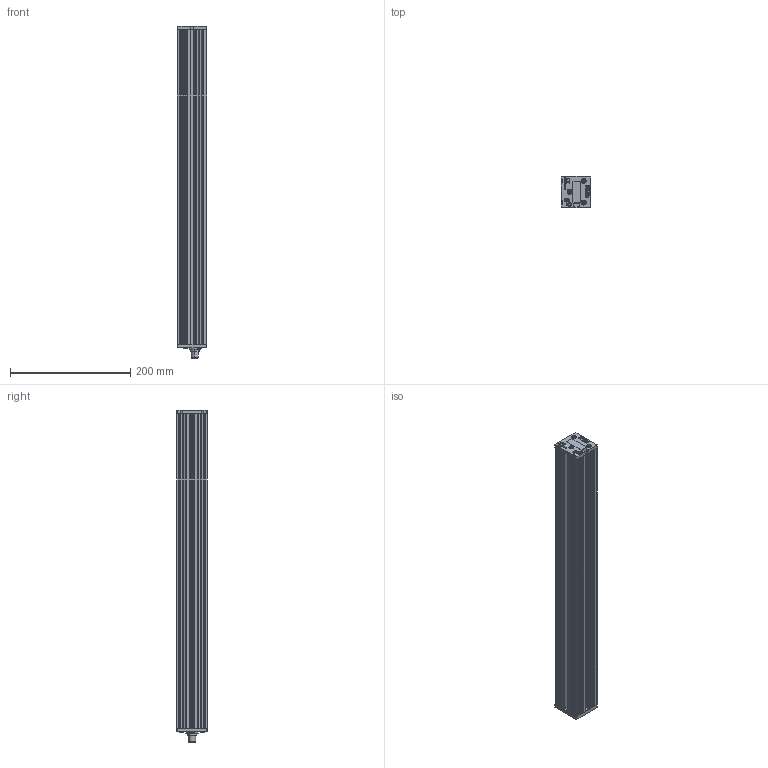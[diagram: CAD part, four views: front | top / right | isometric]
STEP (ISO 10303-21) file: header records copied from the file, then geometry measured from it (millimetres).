
FILE_DESCRIPTION (( 'STEP AP203' ), '1' );
FILE_NAME ('008849A.STEP', '2018-10-15T10:16:08', ( '' ), ( '' ), 'SwSTEP 2.0', 'SolidWorks 2018', '' );
FILE_SCHEMA (( 'CONFIG_CONTROL_DESIGN' ));
Products named in the file (2): 008849A
Bounding box: 49 x 51 x 552.2 mm (x, y, z)
Volume: 357922.2 mm3; surface area: 399692.4 mm2
Topology: 16 solids, 16 shells, 2575 faces, 7032 edges, 4671 vertices
Faces by surface type: plane 1573, bspline 544, cylinder 340, cone 118
Full cylindrical faces by diameter (mm): 0.77 x4, 0.957 x2, 0.97 x4, 1 x4, 1.05 x4, 7 x6, 7.7 x1, 8.3 x1, 10.4 x1, 11 x1, 13 x1, 13.4 x1, 16 x1
Entity records: 120723 total; most frequent: CARTESIAN_POINT 59205, ORIENTED_EDGE 13812, DIRECTION 10620, EDGE_CURVE 6906, LINE 4808, VECTOR 4808, VERTEX_POINT 4615, AXIS2_PLACEMENT_3D 2906
